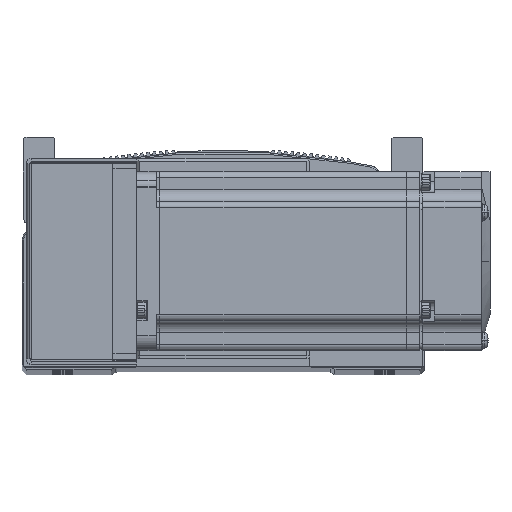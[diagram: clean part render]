
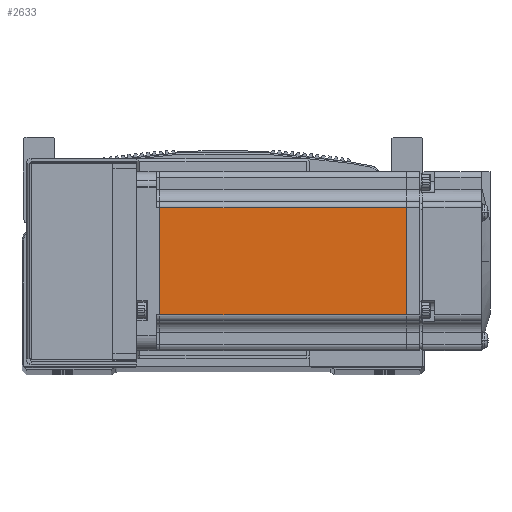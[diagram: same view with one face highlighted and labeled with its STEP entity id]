
A CAD part, top view. The second image highlights one B-rep face of the part: STEP entity #2633.
In plain terms, the highlighted planar face has unit normal (0, 0, 1) as drawn and (0, 0, -1) by its records, which use the part's own axes.
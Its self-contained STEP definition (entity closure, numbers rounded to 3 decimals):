
#2633 = ADVANCED_FACE ( 'NONE', ( #45899 ), #53627, .T. ) ;
#22820 = LINE ( 'NONE', #39277, #22837 ) ;
#22837 = VECTOR ( 'NONE', #39259, 1000. ) ;
#23801 = VECTOR ( 'NONE', #38993, 1000. ) ;
#23816 = LINE ( 'NONE', #38961, #23801 ) ;
#23867 = LINE ( 'NONE', #39121, #23878 ) ;
#23878 = VECTOR ( 'NONE', #39099, 1000. ) ;
#23881 = LINE ( 'NONE', #39119, #23883 ) ;
#23883 = VECTOR ( 'NONE', #39109, 1000. ) ;
#37528 = EDGE_LOOP ( 'NONE', ( #49995, #50194, #50136, #49941 ) ) ;
#38961 = CARTESIAN_POINT ( 'NONE',  ( -6.5, 18., -30. ) ) ;
#38993 = DIRECTION ( 'NONE',  ( 1., 0., 0. ) ) ;
#39099 = DIRECTION ( 'NONE',  ( -1., 0., 0. ) ) ;
#39109 = DIRECTION ( 'NONE',  ( 0., 1., 0. ) ) ;
#39119 = CARTESIAN_POINT ( 'NONE',  ( -90.45, 25., -30. ) ) ;
#39121 = CARTESIAN_POINT ( 'NONE',  ( -6.5, -18., -30. ) ) ;
#39259 = DIRECTION ( 'NONE',  ( 0., -1., 0. ) ) ;
#39277 = CARTESIAN_POINT ( 'NONE',  ( -7.75, 25., -30. ) ) ;
#39948 = CARTESIAN_POINT ( 'NONE',  ( -7.75, -18., -30. ) ) ;
#39955 = CARTESIAN_POINT ( 'NONE',  ( -7.75, 18., -30. ) ) ;
#39983 = CARTESIAN_POINT ( 'NONE',  ( -90.45, 18., -30. ) ) ;
#39994 = CARTESIAN_POINT ( 'NONE',  ( -90.45, -18., -30. ) ) ;
#45899 = FACE_OUTER_BOUND ( 'NONE', #37528, .T. ) ;
#49941 = ORIENTED_EDGE ( 'NONE', *, *, #67231, .T. ) ;
#49995 = ORIENTED_EDGE ( 'NONE', *, *, #67421, .T. ) ;
#50136 = ORIENTED_EDGE ( 'NONE', *, *, #67332, .T. ) ;
#50194 = ORIENTED_EDGE ( 'NONE', *, *, #67334, .T. ) ;
#53627 = PLANE ( 'NONE',  #59413 ) ;
#53643 = DIRECTION ( 'NONE',  ( 0., 0., -1. ) ) ;
#53646 = CARTESIAN_POINT ( 'NONE',  ( -6.5, 25., -30. ) ) ;
#53695 = DIRECTION ( 'NONE',  ( -1., 0., 0. ) ) ;
#59413 = AXIS2_PLACEMENT_3D ( 'NONE', #53646, #53643, #53695 ) ;
#61498 = VERTEX_POINT ( 'NONE', #39948 ) ;
#61539 = VERTEX_POINT ( 'NONE', #39955 ) ;
#61542 = VERTEX_POINT ( 'NONE', #39983 ) ;
#61576 = VERTEX_POINT ( 'NONE', #39994 ) ;
#67231 = EDGE_CURVE ( 'NONE', #61542, #61539, #23816, .T. ) ;
#67332 = EDGE_CURVE ( 'NONE', #61576, #61542, #23881, .T. ) ;
#67334 = EDGE_CURVE ( 'NONE', #61498, #61576, #23867, .T. ) ;
#67421 = EDGE_CURVE ( 'NONE', #61539, #61498, #22820, .T. ) ;
